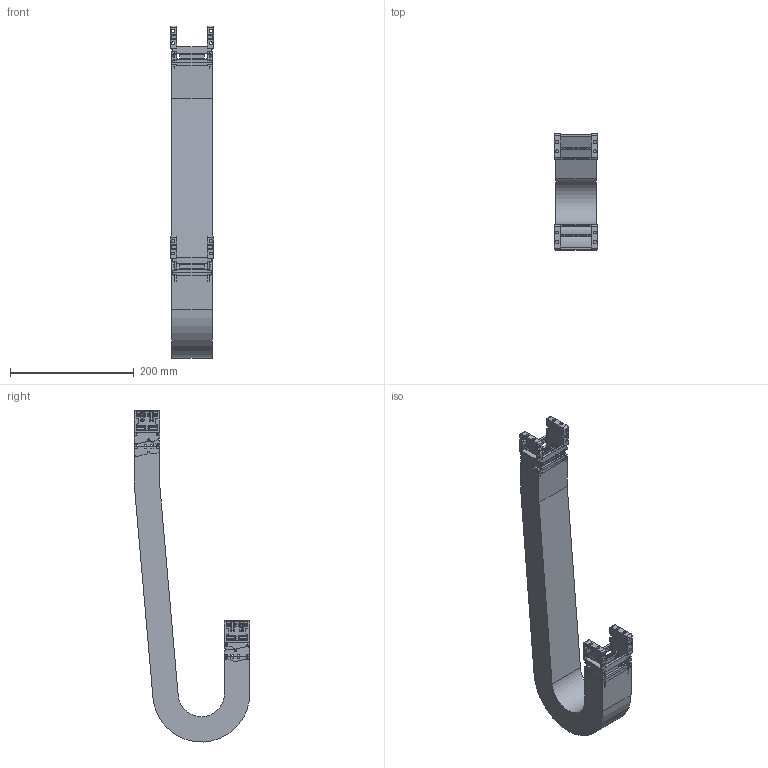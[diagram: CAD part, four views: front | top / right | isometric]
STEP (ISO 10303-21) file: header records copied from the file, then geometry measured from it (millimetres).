
FILE_DESCRIPTION((''),'2;1');
FILE_NAME('KST-30050-055_ASM','2017-12-05T',('KUNI004K'),(''),'PRO/ENGINEER BY PARAMETRIC TECHNOLOGY CORPORATION, 2015200','PRO/ENGINEER BY PARAMETRIC TECHNOLOGY CORPORATION, 2015200','');
FILE_SCHEMA(('AUTOMOTIVE_DESIGN { 1 0 10303 214 1 1 1 1 }'));
Length unit declared in the file: millimetre
Products named in the file (13): 30FBR; 30FBL; 25050C; 30FB_W050_ASM; 30055R; 30055L; 25050H; KST30050-055_1_ASM; KST30050_R55_BODY; 30MBR; 30MBL; 30MB_W050_ASM; KST-30050-055_ASM
Assembly tree (19 placements, depth 3):
  KST-30050-055_ASM
    30FB_W050_ASM
      30FBR
      30FBL
      25050C  x2
    KST30050-055_1_ASM  x2
      30055R
      30055L
      25050C
      25050H
    KST30050_R55_BODY
    30MB_W050_ASM
      30MBR
      30MBL
      25050C  x2
Bounding box: 70 x 187 x 537.23 mm (x, y, z)
Volume: 818567.8 mm3; surface area: 374291 mm2
Topology: 21 solids, 21 shells, 2612 faces, 7198 edges, 4648 vertices
Faces by surface type: plane 1338, cylinder 930, bspline 216, torus 64, sphere 64
Entity records: 71476 total; most frequent: CARTESIAN_POINT 15828, ORIENTED_EDGE 7536, DIRECTION 6706, PRESENTATION_STYLE_ASSIGNMENT 5112, STYLED_ITEM 5112, CURVE_STYLE 3768, EDGE_CURVE 3768, VERTEX_POINT 2460
